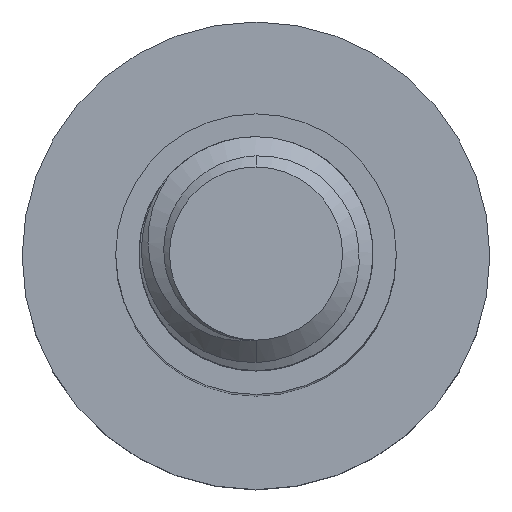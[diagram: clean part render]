
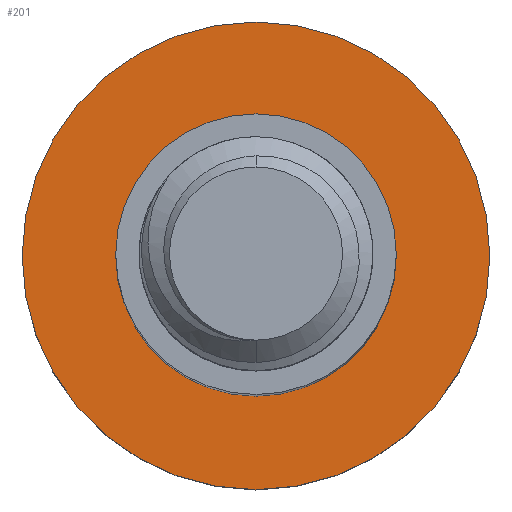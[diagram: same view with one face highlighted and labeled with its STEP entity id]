
A CAD part, top view. The second image highlights one B-rep face of the part: STEP entity #201.
In plain terms, the highlighted planar face has unit normal (0, 0, 1).
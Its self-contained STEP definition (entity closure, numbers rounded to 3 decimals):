
#3 = EDGE_LOOP ( 'NONE', ( #851, #1360 ) ) ;
#180 = EDGE_CURVE ( 'NONE', #2512, #1004, #3364, .T. ) ;
#201 = ADVANCED_FACE ( 'NONE', ( #2141, #2361 ), #3248, .F. ) ;
#310 = CARTESIAN_POINT ( 'NONE',  ( 10., 0., -40. ) ) ;
#329 = DIRECTION ( 'NONE',  ( 0., 0., -1. ) ) ;
#424 = CARTESIAN_POINT ( 'NONE',  ( 0., 0., -40. ) ) ;
#619 = AXIS2_PLACEMENT_3D ( 'NONE', #2789, #329, #2516 ) ;
#722 = DIRECTION ( 'NONE',  ( 0., 0., -1. ) ) ;
#741 = CARTESIAN_POINT ( 'NONE',  ( 0., 0., -40. ) ) ;
#851 = ORIENTED_EDGE ( 'NONE', *, *, #889, .F. ) ;
#889 = EDGE_CURVE ( 'NONE', #3532, #1654, #1351, .T. ) ;
#950 = CIRCLE ( 'NONE', #3321, 6. ) ;
#974 = DIRECTION ( 'NONE',  ( -1., 0., 0. ) ) ;
#990 = AXIS2_PLACEMENT_3D ( 'NONE', #741, #2908, #2106 ) ;
#1004 = VERTEX_POINT ( 'NONE', #3221 ) ;
#1039 = DIRECTION ( 'NONE',  ( -1., 0., 0. ) ) ;
#1253 = EDGE_LOOP ( 'NONE', ( #2296, #2457 ) ) ;
#1351 = CIRCLE ( 'NONE', #2602, 10. ) ;
#1360 = ORIENTED_EDGE ( 'NONE', *, *, #3223, .F. ) ;
#1490 = DIRECTION ( 'NONE',  ( 0., 0., -1. ) ) ;
#1527 = CARTESIAN_POINT ( 'NONE',  ( 0., 0., -40. ) ) ;
#1654 = VERTEX_POINT ( 'NONE', #2272 ) ;
#1928 = AXIS2_PLACEMENT_3D ( 'NONE', #1527, #722, #1039 ) ;
#2106 = DIRECTION ( 'NONE',  ( -1., 0., 0. ) ) ;
#2141 = FACE_BOUND ( 'NONE', #1253, .T. ) ;
#2272 = CARTESIAN_POINT ( 'NONE',  ( -10., 0., -40. ) ) ;
#2296 = ORIENTED_EDGE ( 'NONE', *, *, #3200, .T. ) ;
#2361 = FACE_OUTER_BOUND ( 'NONE', #3, .T. ) ;
#2457 = ORIENTED_EDGE ( 'NONE', *, *, #180, .T. ) ;
#2512 = VERTEX_POINT ( 'NONE', #3326 ) ;
#2516 = DIRECTION ( 'NONE',  ( -1., 0., 0. ) ) ;
#2602 = AXIS2_PLACEMENT_3D ( 'NONE', #424, #2613, #974 ) ;
#2613 = DIRECTION ( 'NONE',  ( 0., 0., -1. ) ) ;
#2789 = CARTESIAN_POINT ( 'NONE',  ( 0., 0., -40. ) ) ;
#2837 = CARTESIAN_POINT ( 'NONE',  ( 0., 0., -40. ) ) ;
#2908 = DIRECTION ( 'NONE',  ( 0., 0., -1. ) ) ;
#2965 = CIRCLE ( 'NONE', #619, 10. ) ;
#3131 = DIRECTION ( 'NONE',  ( -1., 0., 0. ) ) ;
#3200 = EDGE_CURVE ( 'NONE', #1004, #2512, #950, .T. ) ;
#3221 = CARTESIAN_POINT ( 'NONE',  ( -6., 0., -40. ) ) ;
#3223 = EDGE_CURVE ( 'NONE', #1654, #3532, #2965, .T. ) ;
#3248 = PLANE ( 'NONE',  #990 ) ;
#3321 = AXIS2_PLACEMENT_3D ( 'NONE', #2837, #1490, #3131 ) ;
#3326 = CARTESIAN_POINT ( 'NONE',  ( 6., 0., -40. ) ) ;
#3364 = CIRCLE ( 'NONE', #1928, 6. ) ;
#3532 = VERTEX_POINT ( 'NONE', #310 ) ;
